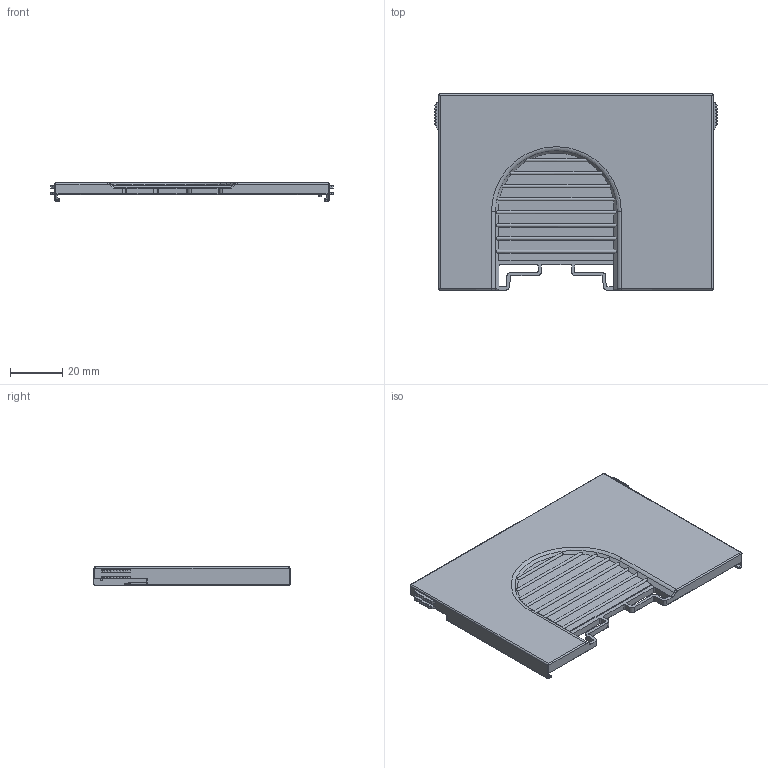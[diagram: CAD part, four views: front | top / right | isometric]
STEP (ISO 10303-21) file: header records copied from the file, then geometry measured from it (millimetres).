
FILE_DESCRIPTION((''),'2;1');
FILE_NAME('ASM0011_ASM','2024-05-29T14:22:46',('Administrator'),(''),'CREO PARAMETRIC BY PTC INC, 2018050','CREO PARAMETRIC BY PTC INC, 2018050','');
FILE_SCHEMA(('AUTOMOTIVE_DESIGN { 1 0 10303 214 1 1 1 1 }'));
Length unit declared in the file: millimetre
Products named in the file (3): _-24041800_1_1_2_3; _24041800_ASM_1_1_2_ASM; ASM0011_ASM
Assembly tree (2 placements, depth 3):
  ASM0011_ASM
    _24041800_ASM_1_1_2_ASM
      _-24041800_1_1_2_3
Bounding box: 108 x 75 x 6.95 mm (x, y, z)
Volume: 31358.7 mm3; surface area: 18003.3 mm2
Topology: 1 solids, 1 shells, 312 faces, 878 edges, 561 vertices
Faces by surface type: plane 159, cylinder 119, cone 11, sphere 9, bspline 7, torus 7
Entity records: 16010 total; most frequent: CARTESIAN_POINT 2954, ORIENTED_EDGE 1738, DIRECTION 1707, PRESENTATION_STYLE_ASSIGNMENT 1182, STYLED_ITEM 1182, CURVE_STYLE 869, EDGE_CURVE 869, AXIS2_PLACEMENT_3D 591
